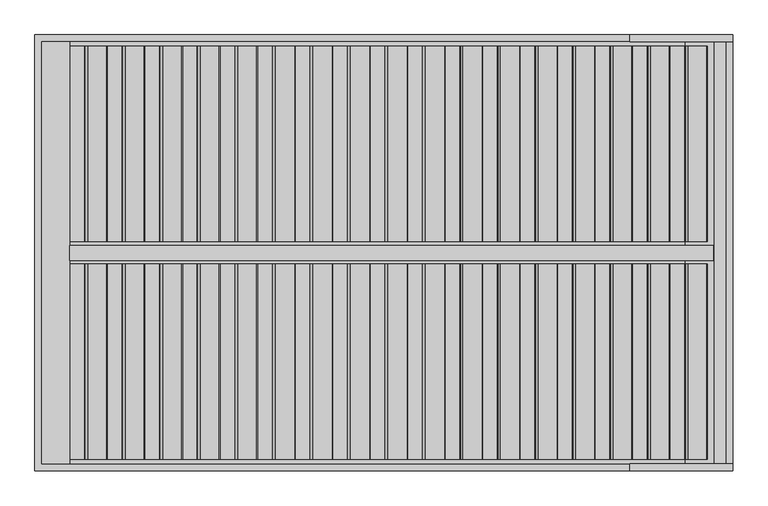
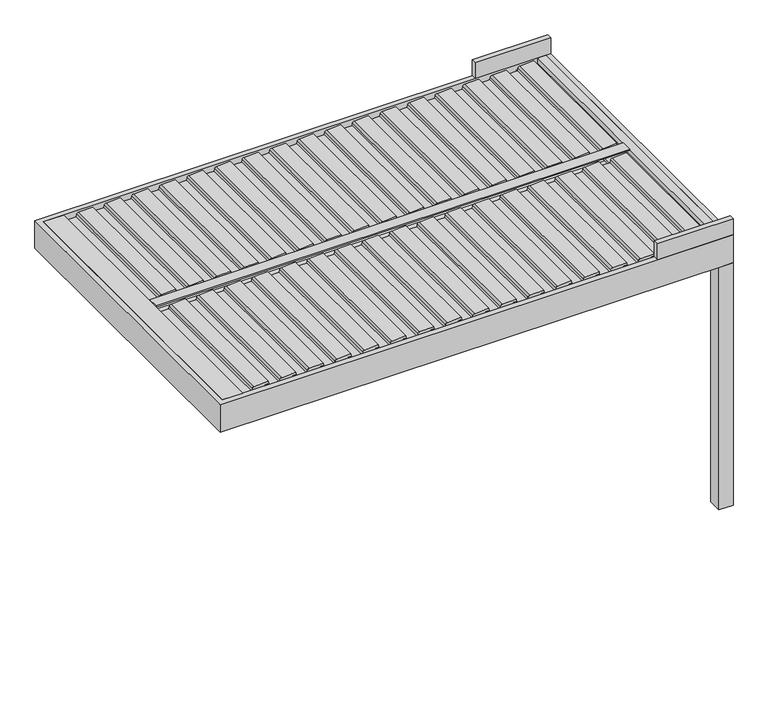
"""IFC4 building model written with IfcOpenShell, lengths in millimetres: proxy geometry, Renson_Algarve_Single Unit With Intermediate Beam : Algarve - Single Unit With Intermediate Beam."""

from ifc_helpers import new_model, si_unit, point, frame, frame_2d, origin, origin_with_axes, place, context, project, spatial, polyline, circle_curve, trimmed, segment, composite_curve, outline, extrude, faceted_brep, source, transform, mapped, element, save


def generic_models_a48c7f24(model_context):
    return source(origin(), model_context, "Body", "SolidModel", [
        extrude(outline(composite_curve([segment(polyline([(2188.35, 1609.6114167), (2216.01198, 1612.0315264), (2217.3970364, 1640.8667769), (2236.8911096, 1637.4294458), (2231.6075693, 1527.4323309)]), True, "CONTINUOUS"), segment(trimmed(circle_curve(frame_2d((2216.6248435, 1528.1520029)), 15.0), [point((2231.6075693, 1527.4323309))], [point((2219.2295662, 1513.3798866))], False, "CARTESIAN"), True, "CONTINUOUS"), segment(polyline([(2219.2295662, 1513.3798866), (2200.0, 1509.9891952), (2200.0, 1422.2534192), (2217.0788237, 1419.2419618), (2216.3450182, 1403.9649913), (2188.35, 1401.5157446), (2188.35, 1609.6114167)]), True, "CONTINUOUS")], self_intersect=False)), frame((0.0, -1810.0, 0.0), z_axis=(0.0, 1.0, 0.0), x_axis=(0.0, 0.0, 1.0)), (0.0, 0.0, 1.0), 1120.0),
        extrude(outline(composite_curve([segment(polyline([(2188.35, 1394.600612), (2216.01198, 1397.0207216), (2217.3970364, 1425.8559721), (2236.8911096, 1422.418641), (2231.6075693, 1312.4215261)]), True, "CONTINUOUS"), segment(trimmed(circle_curve(frame_2d((2216.6248435, 1313.1411981)), 15.0), [point((2231.6075693, 1312.4215261))], [point((2219.2295662, 1298.3690818))], False, "CARTESIAN"), True, "CONTINUOUS"), segment(polyline([(2219.2295662, 1298.3690818), (2200.0, 1294.9783904), (2200.0, 1207.2426144), (2217.0788237, 1204.231157), (2216.3450182, 1188.9541865), (2188.35, 1186.5049398), (2188.35, 1394.600612)]), True, "CONTINUOUS")], self_intersect=False)), frame((0.0, -1810.0, 0.0), z_axis=(0.0, 1.0, 0.0), x_axis=(0.0, 0.0, 1.0)), (0.0, 0.0, 1.0), 1120.0),
        extrude(outline(composite_curve([segment(polyline([(2188.35, 1179.5898072), (2216.01198, 1182.0099168), (2217.3970364, 1210.8451673), (2236.8911096, 1207.4078362), (2231.6075693, 1097.4107214)]), True, "CONTINUOUS"), segment(trimmed(circle_curve(frame_2d((2216.6248435, 1098.1303933)), 15.0), [point((2231.6075693, 1097.4107214))], [point((2219.2295662, 1083.358277))], False, "CARTESIAN"), True, "CONTINUOUS"), segment(polyline([(2219.2295662, 1083.358277), (2200.0, 1079.9675857), (2200.0, 992.2318096), (2217.0788237, 989.2203522), (2216.3450182, 973.9433817), (2188.35, 971.494135), (2188.35, 1179.5898072)]), True, "CONTINUOUS")], self_intersect=False)), frame((0.0, -1810.0, 0.0), z_axis=(0.0, 1.0, 0.0), x_axis=(0.0, 0.0, 1.0)), (0.0, 0.0, 1.0), 1120.0),
        extrude(outline(composite_curve([segment(polyline([(2188.35, 964.5790024), (2216.01198, 966.999112), (2217.3970364, 995.8343625), (2236.8911096, 992.3970314), (2231.6075693, 882.3999166)]), True, "CONTINUOUS"), segment(trimmed(circle_curve(frame_2d((2216.6248435, 883.1195885)), 15.0), [point((2231.6075693, 882.3999166))], [point((2219.2295662, 868.3474722))], False, "CARTESIAN"), True, "CONTINUOUS"), segment(polyline([(2219.2295662, 868.3474722), (2200.0, 864.9567809), (2200.0, 777.2210048), (2217.0788237, 774.2095474), (2216.3450182, 758.932577), (2188.35, 756.4833302), (2188.35, 964.5790024)]), True, "CONTINUOUS")], self_intersect=False)), frame((0.0, -1810.0, 0.0), z_axis=(0.0, 1.0, 0.0), x_axis=(0.0, 0.0, 1.0)), (0.0, 0.0, 1.0), 1120.0),
        extrude(outline(composite_curve([segment(polyline([(2188.35, 749.5681976), (2216.01198, 751.9883073), (2217.3970364, 780.8235577), (2236.8911096, 777.3862267), (2231.6075693, 667.3891118)]), True, "CONTINUOUS"), segment(trimmed(circle_curve(frame_2d((2216.6248435, 668.1087837)), 15.0), [point((2231.6075693, 667.3891118))], [point((2219.2295662, 653.3366674))], False, "CARTESIAN"), True, "CONTINUOUS"), segment(polyline([(2219.2295662, 653.3366674), (2200.0, 649.9459761), (2200.0, 562.2102001), (2217.0788237, 559.1987426), (2216.3450182, 543.9217722), (2188.35, 541.4725254), (2188.35, 749.5681976)]), True, "CONTINUOUS")], self_intersect=False)), frame((0.0, -1810.0, 0.0), z_axis=(0.0, 1.0, 0.0), x_axis=(0.0, 0.0, 1.0)), (0.0, 0.0, 1.0), 1120.0),
        extrude(outline(composite_curve([segment(polyline([(2188.35, 534.5573928), (2216.01198, 536.9775025), (2217.3970364, 565.8127529), (2236.8911096, 562.3754219), (2231.6075693, 452.378307)]), True, "CONTINUOUS"), segment(trimmed(circle_curve(frame_2d((2216.6248435, 453.0979789)), 15.0), [point((2231.6075693, 452.378307))], [point((2219.2295662, 438.3258627))], False, "CARTESIAN"), True, "CONTINUOUS"), segment(polyline([(2219.2295662, 438.3258627), (2200.0, 434.9351713), (2200.0, 347.1993953), (2217.0788237, 344.1879379), (2216.3450182, 328.9109674), (2188.35, 326.4617207), (2188.35, 534.5573928)]), True, "CONTINUOUS")], self_intersect=False)), frame((0.0, -1810.0, 0.0), z_axis=(0.0, 1.0, 0.0), x_axis=(0.0, 0.0, 1.0)), (0.0, 0.0, 1.0), 1120.0),
        extrude(outline(composite_curve([segment(polyline([(2188.35, 319.546588), (2216.01198, 321.9666977), (2217.3970364, 350.8019482), (2236.8911096, 347.3646171), (2231.6075693, 237.3675022)]), True, "CONTINUOUS"), segment(trimmed(circle_curve(frame_2d((2216.6248435, 238.0871742)), 15.0), [point((2231.6075693, 237.3675022))], [point((2219.2295662, 223.3150579))], False, "CARTESIAN"), True, "CONTINUOUS"), segment(polyline([(2219.2295662, 223.3150579), (2200.0, 219.9243665), (2200.0, 132.1885905), (2217.0788237, 129.1771331), (2216.3450182, 113.9001626), (2188.35, 111.4509159), (2188.35, 319.546588)]), True, "CONTINUOUS")], self_intersect=False)), frame((0.0, -1810.0, 0.0), z_axis=(0.0, 1.0, 0.0), x_axis=(0.0, 0.0, 1.0)), (0.0, 0.0, 1.0), 1120.0),
        extrude(outline(composite_curve([segment(polyline([(2188.35, 104.5357833), (2216.01198, 106.9558929), (2217.3970364, 135.7911434), (2236.8911096, 132.3538123), (2231.6075693, 22.3566975)]), True, "CONTINUOUS"), segment(trimmed(circle_curve(frame_2d((2216.6248435, 23.0763694)), 15.0), [point((2231.6075693, 22.3566975))], [point((2219.2295662, 8.3042531))], False, "CARTESIAN"), True, "CONTINUOUS"), segment(polyline([(2219.2295662, 8.3042531), (2200.0, 4.9135617), (2200.0, -82.8222143), (2217.0788237, -85.8336717), (2216.3450182, -101.1106422), (2188.35, -103.5598889), (2188.35, 104.5357833)]), True, "CONTINUOUS")], self_intersect=False)), frame((0.0, -1810.0, 0.0), z_axis=(0.0, 1.0, 0.0), x_axis=(0.0, 0.0, 1.0)), (0.0, 0.0, 1.0), 1120.0),
        extrude(outline(composite_curve([segment(polyline([(2188.35, -110.4750215), (2216.01198, -108.0549119), (2217.3970364, -79.2196614), (2236.8911096, -82.6569925), (2231.6075693, -192.6541073)]), True, "CONTINUOUS"), segment(trimmed(circle_curve(frame_2d((2216.6248435, -191.9344354)), 15.0), [point((2231.6075693, -192.6541073))], [point((2219.2295662, -206.7065517))], False, "CARTESIAN"), True, "CONTINUOUS"), segment(polyline([(2219.2295662, -206.7065517), (2200.0, -210.097243), (2200.0, -297.8330191), (2217.0788237, -300.8444765), (2216.3450182, -316.121447), (2188.35, -318.5706937), (2188.35, -110.4750215)]), True, "CONTINUOUS")], self_intersect=False)), frame((0.0, -1810.0, 0.0), z_axis=(0.0, 1.0, 0.0), x_axis=(0.0, 0.0, 1.0)), (0.0, 0.0, 1.0), 1120.0),
        extrude(outline(composite_curve([segment(polyline([(2188.35, -325.4858263), (2216.01198, -323.0657166), (2217.3970364, -294.2304662), (2236.8911096, -297.6677973), (2231.6075693, -407.6649121)]), True, "CONTINUOUS"), segment(trimmed(circle_curve(frame_2d((2216.6248435, -406.9452402)), 15.0), [point((2231.6075693, -407.6649121))], [point((2219.2295662, -421.7173565))], False, "CARTESIAN"), True, "CONTINUOUS"), segment(polyline([(2219.2295662, -421.7173565), (2200.0, -425.1080478), (2200.0, -512.8438238), (2217.0788237, -515.8552813), (2216.3450182, -531.1322517), (2188.35, -533.5814985), (2188.35, -325.4858263)]), True, "CONTINUOUS")], self_intersect=False)), frame((0.0, -1810.0, 0.0), z_axis=(0.0, 1.0, 0.0), x_axis=(0.0, 0.0, 1.0)), (0.0, 0.0, 1.0), 1120.0),
        extrude(outline(composite_curve([segment(polyline([(2188.35, -540.4966311), (2216.01198, -538.0765214), (2217.3970364, -509.241271), (2236.8911096, -512.678602), (2231.6075693, -622.6757169)]), True, "CONTINUOUS"), segment(trimmed(circle_curve(frame_2d((2216.6248435, -621.956045)), 15.0), [point((2231.6075693, -622.6757169))], [point((2219.2295662, -636.7281613))], False, "CARTESIAN"), True, "CONTINUOUS"), segment(polyline([(2219.2295662, -636.7281613), (2200.0, -640.1188526), (2200.0, -727.8546286), (2217.0788237, -730.866086), (2216.3450182, -746.1430565), (2188.35, -748.5923032), (2188.35, -540.4966311)]), True, "CONTINUOUS")], self_intersect=False)), frame((0.0, -1810.0, 0.0), z_axis=(0.0, 1.0, 0.0), x_axis=(0.0, 0.0, 1.0)), (0.0, 0.0, 1.0), 1120.0),
        extrude(outline(composite_curve([segment(polyline([(2188.35, -755.5074359), (2216.01198, -753.0873262), (2217.3970364, -724.2520757), (2236.8911096, -727.6894068), (2231.6075693, -837.6865217)]), True, "CONTINUOUS"), segment(trimmed(circle_curve(frame_2d((2216.6248435, -836.9668497)), 15.0), [point((2231.6075693, -837.6865217))], [point((2219.2295662, -851.738966))], False, "CARTESIAN"), True, "CONTINUOUS"), segment(polyline([(2219.2295662, -851.738966), (2200.0, -855.1296574), (2200.0, -942.8654334), (2217.0788237, -945.8768908), (2216.3450182, -961.1538613), (2188.35, -963.603108), (2188.35, -755.5074359)]), True, "CONTINUOUS")], self_intersect=False)), frame((0.0, -1810.0, 0.0), z_axis=(0.0, 1.0, 0.0), x_axis=(0.0, 0.0, 1.0)), (0.0, 0.0, 1.0), 1120.0),
        extrude(outline(composite_curve([segment(polyline([(2188.35, -970.5182406), (2216.01198, -968.098131), (2217.3970364, -939.2628805), (2236.8911096, -942.7002116), (2231.6075693, -1052.6973265)]), True, "CONTINUOUS"), segment(trimmed(circle_curve(frame_2d((2216.6248435, -1051.9776545)), 15.0), [point((2231.6075693, -1052.6973265))], [point((2219.2295662, -1066.7497708))], False, "CARTESIAN"), True, "CONTINUOUS"), segment(polyline([(2219.2295662, -1066.7497708), (2200.0, -1070.1404622), (2200.0, -1157.8762382), (2217.0788237, -1160.8876956), (2216.3450182, -1176.1646661), (2188.35, -1178.6139128), (2188.35, -970.5182406)]), True, "CONTINUOUS")], self_intersect=False)), frame((0.0, -1810.0, 0.0), z_axis=(0.0, 1.0, 0.0), x_axis=(0.0, 0.0, 1.0)), (0.0, 0.0, 1.0), 1120.0),
        extrude(outline(composite_curve([segment(polyline([(2188.35, -1185.5290454), (2216.01198, -1183.1089358), (2217.3970364, -1154.2736853), (2236.8911096, -1157.7110164), (2231.6075693, -1267.7081312)]), True, "CONTINUOUS"), segment(trimmed(circle_curve(frame_2d((2216.6248435, -1266.9884593)), 15.0), [point((2231.6075693, -1267.7081312))], [point((2219.2295662, -1281.7605756))], False, "CARTESIAN"), True, "CONTINUOUS"), segment(polyline([(2219.2295662, -1281.7605756), (2200.0, -1285.1512669), (2200.0, -1372.887043), (2217.0788237, -1375.8985004), (2216.3450182, -1391.1754709), (2188.35, -1393.6247176), (2188.35, -1185.5290454)]), True, "CONTINUOUS")], self_intersect=False)), frame((0.0, -1810.0, 0.0), z_axis=(0.0, 1.0, 0.0), x_axis=(0.0, 0.0, 1.0)), (0.0, 0.0, 1.0), 1120.0),
        extrude(outline(composite_curve([segment(polyline([(2188.35, -1400.5398502), (2216.01198, -1398.1197405), (2217.3970364, -1369.2844901), (2236.8911096, -1372.7218212), (2231.6075693, -1482.718936)]), True, "CONTINUOUS"), segment(trimmed(circle_curve(frame_2d((2216.6248435, -1481.9992641)), 15.0), [point((2231.6075693, -1482.718936))], [point((2219.2295662, -1496.7713804))], False, "CARTESIAN"), True, "CONTINUOUS"), segment(polyline([(2219.2295662, -1496.7713804), (2200.0, -1500.1620717), (2200.0, -1587.8978478), (2217.0788237, -1590.9093052), (2216.3450182, -1606.1862756), (2188.35, -1608.6355224), (2188.35, -1400.5398502)]), True, "CONTINUOUS")], self_intersect=False)), frame((0.0, -1810.0, 0.0), z_axis=(0.0, 1.0, 0.0), x_axis=(0.0, 0.0, 1.0)), (0.0, 0.0, 1.0), 1120.0),
        extrude(outline(composite_curve([segment(polyline([(2188.35, 1824.6222215), (2216.01198, 1827.0423312), (2217.3970364, 1855.8775816), (2236.8911096, 1852.4402506), (2231.6075693, 1742.4431357)]), True, "CONTINUOUS"), segment(trimmed(circle_curve(frame_2d((2216.6248435, 1743.1628076)), 15.0), [point((2231.6075693, 1742.4431357))], [point((2219.2295662, 1728.3906913))], False, "CARTESIAN"), True, "CONTINUOUS"), segment(polyline([(2219.2295662, 1728.3906913), (2200.0, 1725.0), (2200.0, 1637.264224), (2217.0788237, 1634.2527666), (2216.3450182, 1618.9757961), (2188.35, 1616.5265494), (2188.35, 1824.6222215)]), True, "CONTINUOUS")], self_intersect=False)), frame((0.0, -1810.0, 0.0), z_axis=(0.0, 1.0, 0.0), x_axis=(0.0, 0.0, 1.0)), (0.0, 0.0, 1.0), 1120.0),
        extrude(outline(composite_curve([segment(polyline([(2188.35, -1615.550655), (2216.01198, -1613.1305453), (2217.3970364, -1584.2952949), (2236.8911096, -1587.7326259), (2231.6075693, -1697.7297408)]), True, "CONTINUOUS"), segment(trimmed(circle_curve(frame_2d((2216.6248435, -1697.0100689)), 15.0), [point((2231.6075693, -1697.7297408))], [point((2219.2295662, -1711.7821852))], False, "CARTESIAN"), True, "CONTINUOUS"), segment(polyline([(2219.2295662, -1711.7821852), (2200.0, -1715.1728765), (2200.0, -1802.9086525), (2217.0788237, -1805.9201099), (2216.3450182, -1821.1970804), (2188.35, -1823.6463271), (2188.35, -1615.550655)]), True, "CONTINUOUS")], self_intersect=False)), frame((0.0, -1810.0, 0.0), z_axis=(0.0, 1.0, 0.0), x_axis=(0.0, 0.0, 1.0)), (0.0, 0.0, 1.0), 1120.0),
        extrude(outline(composite_curve([segment(polyline([(2188.35, 1609.6114167), (2216.01198, 1612.0315264), (2217.3970364, 1640.8667769), (2236.8911096, 1637.4294458), (2231.6075693, 1527.4323309)]), True, "CONTINUOUS"), segment(trimmed(circle_curve(frame_2d((2216.6248435, 1528.1520029)), 15.0), [point((2231.6075693, 1527.4323309))], [point((2219.2295662, 1513.3798866))], False, "CARTESIAN"), True, "CONTINUOUS"), segment(polyline([(2219.2295662, 1513.3798866), (2200.0, 1509.9891952), (2200.0, 1422.2534192), (2217.0788237, 1419.2419618), (2216.3450182, 1403.9649913), (2188.35, 1401.5157446), (2188.35, 1609.6114167)]), True, "CONTINUOUS")], self_intersect=False)), frame((0.0, -560.0, 0.0), z_axis=(0.0, 1.0, 0.0), x_axis=(0.0, 0.0, 1.0)), (0.0, 0.0, 1.0), 1120.0),
        extrude(outline(composite_curve([segment(polyline([(2188.35, 1394.600612), (2216.01198, 1397.0207216), (2217.3970364, 1425.8559721), (2236.8911096, 1422.418641), (2231.6075693, 1312.4215261)]), True, "CONTINUOUS"), segment(trimmed(circle_curve(frame_2d((2216.6248435, 1313.1411981)), 15.0), [point((2231.6075693, 1312.4215261))], [point((2219.2295662, 1298.3690818))], False, "CARTESIAN"), True, "CONTINUOUS"), segment(polyline([(2219.2295662, 1298.3690818), (2200.0, 1294.9783904), (2200.0, 1207.2426144), (2217.0788237, 1204.231157), (2216.3450182, 1188.9541865), (2188.35, 1186.5049398), (2188.35, 1394.600612)]), True, "CONTINUOUS")], self_intersect=False)), frame((0.0, -560.0, 0.0), z_axis=(0.0, 1.0, 0.0), x_axis=(0.0, 0.0, 1.0)), (0.0, 0.0, 1.0), 1120.0),
        extrude(outline(composite_curve([segment(polyline([(2188.35, 1179.5898072), (2216.01198, 1182.0099168), (2217.3970364, 1210.8451673), (2236.8911096, 1207.4078362), (2231.6075693, 1097.4107214)]), True, "CONTINUOUS"), segment(trimmed(circle_curve(frame_2d((2216.6248435, 1098.1303933)), 15.0), [point((2231.6075693, 1097.4107214))], [point((2219.2295662, 1083.358277))], False, "CARTESIAN"), True, "CONTINUOUS"), segment(polyline([(2219.2295662, 1083.358277), (2200.0, 1079.9675857), (2200.0, 992.2318096), (2217.0788237, 989.2203522), (2216.3450182, 973.9433817), (2188.35, 971.494135), (2188.35, 1179.5898072)]), True, "CONTINUOUS")], self_intersect=False)), frame((0.0, -560.0, 0.0), z_axis=(0.0, 1.0, 0.0), x_axis=(0.0, 0.0, 1.0)), (0.0, 0.0, 1.0), 1120.0),
        extrude(outline(composite_curve([segment(polyline([(2188.35, 964.5790024), (2216.01198, 966.999112), (2217.3970364, 995.8343625), (2236.8911096, 992.3970314), (2231.6075693, 882.3999166)]), True, "CONTINUOUS"), segment(trimmed(circle_curve(frame_2d((2216.6248435, 883.1195885)), 15.0), [point((2231.6075693, 882.3999166))], [point((2219.2295662, 868.3474722))], False, "CARTESIAN"), True, "CONTINUOUS"), segment(polyline([(2219.2295662, 868.3474722), (2200.0, 864.9567809), (2200.0, 777.2210048), (2217.0788237, 774.2095474), (2216.3450182, 758.932577), (2188.35, 756.4833302), (2188.35, 964.5790024)]), True, "CONTINUOUS")], self_intersect=False)), frame((0.0, -560.0, 0.0), z_axis=(0.0, 1.0, 0.0), x_axis=(0.0, 0.0, 1.0)), (0.0, 0.0, 1.0), 1120.0),
        extrude(outline(composite_curve([segment(polyline([(2188.35, 749.5681976), (2216.01198, 751.9883073), (2217.3970364, 780.8235577), (2236.8911096, 777.3862267), (2231.6075693, 667.3891118)]), True, "CONTINUOUS"), segment(trimmed(circle_curve(frame_2d((2216.6248435, 668.1087837)), 15.0), [point((2231.6075693, 667.3891118))], [point((2219.2295662, 653.3366674))], False, "CARTESIAN"), True, "CONTINUOUS"), segment(polyline([(2219.2295662, 653.3366674), (2200.0, 649.9459761), (2200.0, 562.2102001), (2217.0788237, 559.1987426), (2216.3450182, 543.9217722), (2188.35, 541.4725254), (2188.35, 749.5681976)]), True, "CONTINUOUS")], self_intersect=False)), frame((0.0, -560.0, 0.0), z_axis=(0.0, 1.0, 0.0), x_axis=(0.0, 0.0, 1.0)), (0.0, 0.0, 1.0), 1120.0),
        extrude(outline(composite_curve([segment(polyline([(2188.35, 534.5573928), (2216.01198, 536.9775025), (2217.3970364, 565.8127529), (2236.8911096, 562.3754219), (2231.6075693, 452.378307)]), True, "CONTINUOUS"), segment(trimmed(circle_curve(frame_2d((2216.6248435, 453.0979789)), 15.0), [point((2231.6075693, 452.378307))], [point((2219.2295662, 438.3258627))], False, "CARTESIAN"), True, "CONTINUOUS"), segment(polyline([(2219.2295662, 438.3258627), (2200.0, 434.9351713), (2200.0, 347.1993953), (2217.0788237, 344.1879379), (2216.3450182, 328.9109674), (2188.35, 326.4617207), (2188.35, 534.5573928)]), True, "CONTINUOUS")], self_intersect=False)), frame((0.0, -560.0, 0.0), z_axis=(0.0, 1.0, 0.0), x_axis=(0.0, 0.0, 1.0)), (0.0, 0.0, 1.0), 1120.0),
        extrude(outline(composite_curve([segment(polyline([(2188.35, 319.546588), (2216.01198, 321.9666977), (2217.3970364, 350.8019482), (2236.8911096, 347.3646171), (2231.6075693, 237.3675022)]), True, "CONTINUOUS"), segment(trimmed(circle_curve(frame_2d((2216.6248435, 238.0871742)), 15.0), [point((2231.6075693, 237.3675022))], [point((2219.2295662, 223.3150579))], False, "CARTESIAN"), True, "CONTINUOUS"), segment(polyline([(2219.2295662, 223.3150579), (2200.0, 219.9243665), (2200.0, 132.1885905), (2217.0788237, 129.1771331), (2216.3450182, 113.9001626), (2188.35, 111.4509159), (2188.35, 319.546588)]), True, "CONTINUOUS")], self_intersect=False)), frame((0.0, -560.0, 0.0), z_axis=(0.0, 1.0, 0.0), x_axis=(0.0, 0.0, 1.0)), (0.0, 0.0, 1.0), 1120.0),
        extrude(outline(composite_curve([segment(polyline([(2188.35, 104.5357833), (2216.01198, 106.9558929), (2217.3970364, 135.7911434), (2236.8911096, 132.3538123), (2231.6075693, 22.3566975)]), True, "CONTINUOUS"), segment(trimmed(circle_curve(frame_2d((2216.6248435, 23.0763694)), 15.0), [point((2231.6075693, 22.3566975))], [point((2219.2295662, 8.3042531))], False, "CARTESIAN"), True, "CONTINUOUS"), segment(polyline([(2219.2295662, 8.3042531), (2200.0, 4.9135617), (2200.0, -82.8222143), (2217.0788237, -85.8336717), (2216.3450182, -101.1106422), (2188.35, -103.5598889), (2188.35, 104.5357833)]), True, "CONTINUOUS")], self_intersect=False)), frame((0.0, -560.0, 0.0), z_axis=(0.0, 1.0, 0.0), x_axis=(0.0, 0.0, 1.0)), (0.0, 0.0, 1.0), 1120.0),
        extrude(outline(composite_curve([segment(polyline([(2188.35, -110.4750215), (2216.01198, -108.0549119), (2217.3970364, -79.2196614), (2236.8911096, -82.6569925), (2231.6075693, -192.6541073)]), True, "CONTINUOUS"), segment(trimmed(circle_curve(frame_2d((2216.6248435, -191.9344354)), 15.0), [point((2231.6075693, -192.6541073))], [point((2219.2295662, -206.7065517))], False, "CARTESIAN"), True, "CONTINUOUS"), segment(polyline([(2219.2295662, -206.7065517), (2200.0, -210.097243), (2200.0, -297.8330191), (2217.0788237, -300.8444765), (2216.3450182, -316.121447), (2188.35, -318.5706937), (2188.35, -110.4750215)]), True, "CONTINUOUS")], self_intersect=False)), frame((0.0, -560.0, 0.0), z_axis=(0.0, 1.0, 0.0), x_axis=(0.0, 0.0, 1.0)), (0.0, 0.0, 1.0), 1120.0),
        extrude(outline(composite_curve([segment(polyline([(2188.35, -325.4858263), (2216.01198, -323.0657166), (2217.3970364, -294.2304662), (2236.8911096, -297.6677973), (2231.6075693, -407.6649121)]), True, "CONTINUOUS"), segment(trimmed(circle_curve(frame_2d((2216.6248435, -406.9452402)), 15.0), [point((2231.6075693, -407.6649121))], [point((2219.2295662, -421.7173565))], False, "CARTESIAN"), True, "CONTINUOUS"), segment(polyline([(2219.2295662, -421.7173565), (2200.0, -425.1080478), (2200.0, -512.8438238), (2217.0788237, -515.8552813), (2216.3450182, -531.1322517), (2188.35, -533.5814985), (2188.35, -325.4858263)]), True, "CONTINUOUS")], self_intersect=False)), frame((0.0, -560.0, 0.0), z_axis=(0.0, 1.0, 0.0), x_axis=(0.0, 0.0, 1.0)), (0.0, 0.0, 1.0), 1120.0),
        extrude(outline(composite_curve([segment(polyline([(2188.35, -540.4966311), (2216.01198, -538.0765214), (2217.3970364, -509.241271), (2236.8911096, -512.678602), (2231.6075693, -622.6757169)]), True, "CONTINUOUS"), segment(trimmed(circle_curve(frame_2d((2216.6248435, -621.956045)), 15.0), [point((2231.6075693, -622.6757169))], [point((2219.2295662, -636.7281613))], False, "CARTESIAN"), True, "CONTINUOUS"), segment(polyline([(2219.2295662, -636.7281613), (2200.0, -640.1188526), (2200.0, -727.8546286), (2217.0788237, -730.866086), (2216.3450182, -746.1430565), (2188.35, -748.5923032), (2188.35, -540.4966311)]), True, "CONTINUOUS")], self_intersect=False)), frame((0.0, -560.0, 0.0), z_axis=(0.0, 1.0, 0.0), x_axis=(0.0, 0.0, 1.0)), (0.0, 0.0, 1.0), 1120.0),
        extrude(outline(composite_curve([segment(polyline([(2188.35, -755.5074359), (2216.01198, -753.0873262), (2217.3970364, -724.2520757), (2236.8911096, -727.6894068), (2231.6075693, -837.6865217)]), True, "CONTINUOUS"), segment(trimmed(circle_curve(frame_2d((2216.6248435, -836.9668497)), 15.0), [point((2231.6075693, -837.6865217))], [point((2219.2295662, -851.738966))], False, "CARTESIAN"), True, "CONTINUOUS"), segment(polyline([(2219.2295662, -851.738966), (2200.0, -855.1296574), (2200.0, -942.8654334), (2217.0788237, -945.8768908), (2216.3450182, -961.1538613), (2188.35, -963.603108), (2188.35, -755.5074359)]), True, "CONTINUOUS")], self_intersect=False)), frame((0.0, -560.0, 0.0), z_axis=(0.0, 1.0, 0.0), x_axis=(0.0, 0.0, 1.0)), (0.0, 0.0, 1.0), 1120.0),
        extrude(outline(composite_curve([segment(polyline([(2188.35, -970.5182406), (2216.01198, -968.098131), (2217.3970364, -939.2628805), (2236.8911096, -942.7002116), (2231.6075693, -1052.6973265)]), True, "CONTINUOUS"), segment(trimmed(circle_curve(frame_2d((2216.6248435, -1051.9776545)), 15.0), [point((2231.6075693, -1052.6973265))], [point((2219.2295662, -1066.7497708))], False, "CARTESIAN"), True, "CONTINUOUS"), segment(polyline([(2219.2295662, -1066.7497708), (2200.0, -1070.1404622), (2200.0, -1157.8762382), (2217.0788237, -1160.8876956), (2216.3450182, -1176.1646661), (2188.35, -1178.6139128), (2188.35, -970.5182406)]), True, "CONTINUOUS")], self_intersect=False)), frame((0.0, -560.0, 0.0), z_axis=(0.0, 1.0, 0.0), x_axis=(0.0, 0.0, 1.0)), (0.0, 0.0, 1.0), 1120.0),
        extrude(outline(composite_curve([segment(polyline([(2188.35, -1185.5290454), (2216.01198, -1183.1089358), (2217.3970364, -1154.2736853), (2236.8911096, -1157.7110164), (2231.6075693, -1267.7081312)]), True, "CONTINUOUS"), segment(trimmed(circle_curve(frame_2d((2216.6248435, -1266.9884593)), 15.0), [point((2231.6075693, -1267.7081312))], [point((2219.2295662, -1281.7605756))], False, "CARTESIAN"), True, "CONTINUOUS"), segment(polyline([(2219.2295662, -1281.7605756), (2200.0, -1285.1512669), (2200.0, -1372.887043), (2217.0788237, -1375.8985004), (2216.3450182, -1391.1754709), (2188.35, -1393.6247176), (2188.35, -1185.5290454)]), True, "CONTINUOUS")], self_intersect=False)), frame((0.0, -560.0, 0.0), z_axis=(0.0, 1.0, 0.0), x_axis=(0.0, 0.0, 1.0)), (0.0, 0.0, 1.0), 1120.0),
        extrude(outline(composite_curve([segment(polyline([(2188.35, -1400.5398502), (2216.01198, -1398.1197405), (2217.3970364, -1369.2844901), (2236.8911096, -1372.7218212), (2231.6075693, -1482.718936)]), True, "CONTINUOUS"), segment(trimmed(circle_curve(frame_2d((2216.6248435, -1481.9992641)), 15.0), [point((2231.6075693, -1482.718936))], [point((2219.2295662, -1496.7713804))], False, "CARTESIAN"), True, "CONTINUOUS"), segment(polyline([(2219.2295662, -1496.7713804), (2200.0, -1500.1620717), (2200.0, -1587.8978478), (2217.0788237, -1590.9093052), (2216.3450182, -1606.1862756), (2188.35, -1608.6355224), (2188.35, -1400.5398502)]), True, "CONTINUOUS")], self_intersect=False)), frame((0.0, -560.0, 0.0), z_axis=(0.0, 1.0, 0.0), x_axis=(0.0, 0.0, 1.0)), (0.0, 0.0, 1.0), 1120.0),
        extrude(outline(composite_curve([segment(polyline([(2188.35, 1824.6222215), (2216.01198, 1827.0423312), (2217.3970364, 1855.8775816), (2236.8911096, 1852.4402506), (2231.6075693, 1742.4431357)]), True, "CONTINUOUS"), segment(trimmed(circle_curve(frame_2d((2216.6248435, 1743.1628076)), 15.0), [point((2231.6075693, 1742.4431357))], [point((2219.2295662, 1728.3906913))], False, "CARTESIAN"), True, "CONTINUOUS"), segment(polyline([(2219.2295662, 1728.3906913), (2200.0, 1725.0), (2200.0, 1637.264224), (2217.0788237, 1634.2527666), (2216.3450182, 1618.9757961), (2188.35, 1616.5265494), (2188.35, 1824.6222215)]), True, "CONTINUOUS")], self_intersect=False)), frame((0.0, -560.0, 0.0), z_axis=(0.0, 1.0, 0.0), x_axis=(0.0, 0.0, 1.0)), (0.0, 0.0, 1.0), 1120.0),
        extrude(outline(composite_curve([segment(polyline([(2188.35, -1615.550655), (2216.01198, -1613.1305453), (2217.3970364, -1584.2952949), (2236.8911096, -1587.7326259), (2231.6075693, -1697.7297408)]), True, "CONTINUOUS"), segment(trimmed(circle_curve(frame_2d((2216.6248435, -1697.0100689)), 15.0), [point((2231.6075693, -1697.7297408))], [point((2219.2295662, -1711.7821852))], False, "CARTESIAN"), True, "CONTINUOUS"), segment(polyline([(2219.2295662, -1711.7821852), (2200.0, -1715.1728765), (2200.0, -1802.9086525), (2217.0788237, -1805.9201099), (2216.3450182, -1821.1970804), (2188.35, -1823.6463271), (2188.35, -1615.550655)]), True, "CONTINUOUS")], self_intersect=False)), frame((0.0, -560.0, 0.0), z_axis=(0.0, 1.0, 0.0), x_axis=(0.0, 0.0, 1.0)), (0.0, 0.0, 1.0), 1120.0),
        extrude(outline(polyline([(2168.0, 1960.0), (2230.0, 1960.0), (2230.0, 1896.0), (2188.0, 1896.0), (2188.0, 1730.0), (2168.0, 1730.0), (2168.0, 1960.0)])), frame((0.0, -1835.0, 0.0), z_axis=(0.0, 1.0, 0.0), x_axis=(0.0, 0.0, 1.0)), (0.0, 0.0, 1.0), 2420.0),
        extrude(outline(polyline([(2230.0, -1800.0), (2230.0, -1960.0), (2186.0, -1960.0), (2186.0, -1827.3193336), (2219.1716603, -1824.4171894), (2220.344502, -1800.0), (2230.0, -1800.0)])), frame((0.0, -1835.0, 0.0), z_axis=(0.0, 1.0, 0.0), x_axis=(0.0, 0.0, 1.0)), (0.0, 0.0, 1.0), 2420.0),
        extrude(outline(polyline([(2000.0, -1835.0), (2000.0, -1875.0), (1410.0, -1875.0), (1410.0, -1835.0), (2000.0, -1835.0)])), frame((0.0, 0.0, 2230.0), z_axis=(0.0, 0.0, 1.0), x_axis=(1.0, 0.0, 0.0)), (0.0, 0.0, 1.0), 130.0),
        extrude(outline(polyline([(1890.0, -588.0), (-1890.0, -588.0), (-1890.0, -515.0), (1890.0, -515.0), (1890.0, -588.0)])), frame((0.0, 0.0, 2000.0), z_axis=(0.0, 0.0, 1.0), x_axis=(1.0, 0.0, 0.0)), (0.0, 0.0, 1.0), 90.0),
        extrude(outline(polyline([(1890.0, -662.0), (1890.0, -735.0), (-1890.0, -735.0), (-1890.0, -662.0), (1890.0, -662.0)])), frame((0.0, 0.0, 2000.0), z_axis=(0.0, 0.0, 1.0), x_axis=(1.0, 0.0, 0.0)), (0.0, 0.0, 1.0), 90.0),
        extrude(outline(polyline([(1890.0, -582.5), (1890.0, -667.5), (-1800.0, -667.5), (-1800.0, -582.5), (1890.0, -582.5)])), frame((0.0, 0.0, 2230.0), z_axis=(0.0, 0.0, 1.0), x_axis=(1.0, 0.0, 0.0)), (0.0, 0.0, 1.0), 10.0),
        faceted_brep([(1890.0, 515.0, 2057.0), (1890.0, 515.0, 2000.0), (1890.0, -1765.0, 2000.0), (1890.0, -1765.0, 2057.0), (2000.0, 625.0, 2000.0), (2000.0, 625.0, 2230.0), (2000.0, -1875.0, 2230.0), (2000.0, -1875.0, 2000.0), (1960.0, 585.0, 2230.0), (1960.0, 585.0, 2057.0), (1960.0, -1835.0, 2057.0), (1960.0, -1835.0, 2230.0), (-1890.0, -1765.0, 2000.0), (-1890.0, -1765.0, 2057.0), (-2000.0, -1875.0, 2230.0), (-2000.0, -1875.0, 2000.0), (-1960.0, -1835.0, 2057.0), (-1960.0, -1835.0, 2230.0), (-1890.0, 515.0, 2000.0), (-1890.0, 515.0, 2057.0), (-2000.0, 625.0, 2230.0), (-2000.0, 625.0, 2000.0), (-1960.0, 585.0, 2057.0), (-1960.0, 585.0, 2230.0)], [[[0, 1, 2, 3]], [[4, 5, 6, 7]], [[8, 9, 10, 11]], [[3, 2, 12, 13]], [[7, 6, 14, 15]], [[11, 10, 16, 17]], [[13, 12, 18, 19]], [[15, 14, 20, 21]], [[17, 16, 22, 23]], [[9, 22, 16, 10], [3, 13, 19, 0]], [[19, 18, 1, 0]], [[7, 15, 21, 4], [1, 18, 12, 2]], [[21, 20, 5, 4]], [[5, 20, 14, 6], [11, 17, 23, 8]], [[23, 22, 9, 8]]]),
        extrude(outline(polyline([(2000.0, -1765.0), (2000.0, -1875.0), (1890.0, -1875.0), (1890.0, -1765.0), (2000.0, -1765.0)])), origin_with_axes(), (0.0, 0.0, 1.0), 2000.0),
        extrude(outline(polyline([(2000.0, 625.0), (2000.0, 585.0), (1410.0, 585.0), (1410.0, 625.0), (2000.0, 625.0)])), frame((0.0, 0.0, 2230.0), z_axis=(0.0, 0.0, 1.0), x_axis=(1.0, 0.0, 0.0)), (0.0, 0.0, 1.0), 130.0),
    ])


if __name__ == "__main__":
    model = new_model("IFC4")
    model_context = context("Model", 3, world=origin())
    ifc_project = project(units=[si_unit("LENGTHUNIT", "METRE", prefix="MILLI")], contexts=[model_context])
    site = spatial("IfcSite", under=ifc_project)
    building = spatial("IfcBuilding", under=site)
    placement = place(None, origin())
    generic_models_shape = generic_models_a48c7f24(model_context)
    element("IfcBuildingElementProxy", 1, Name="Renson_Algarve_Single Unit With Intermediate Beam : Algarve - Single Unit With Intermediate Beam", ObjectType="Renson_Algarve_Single Unit With Intermediate Beam : Algarve - Single Unit With Intermediate Beam", at=placement, inside=building, context=model_context, shape_type="MappedRepresentation", body=[
        mapped(generic_models_shape, transform((0.0, 0.0, 0.0), x_axis=(1.0, 0.0, 0.0), y_axis=(0.0, 1.0, 0.0), z_axis=(0.0, 0.0, 1.0))),
    ])
    save(model, "model.ifc")
